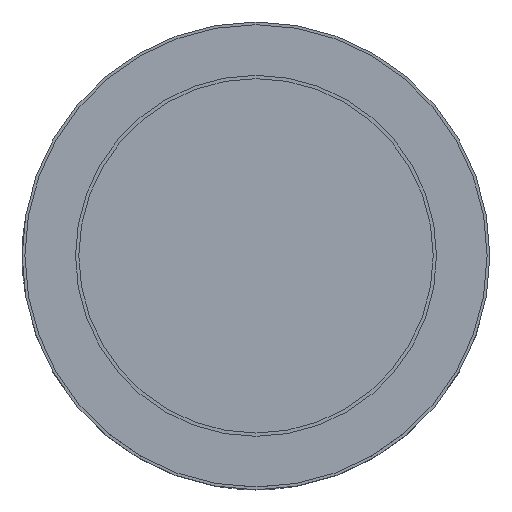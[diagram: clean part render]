
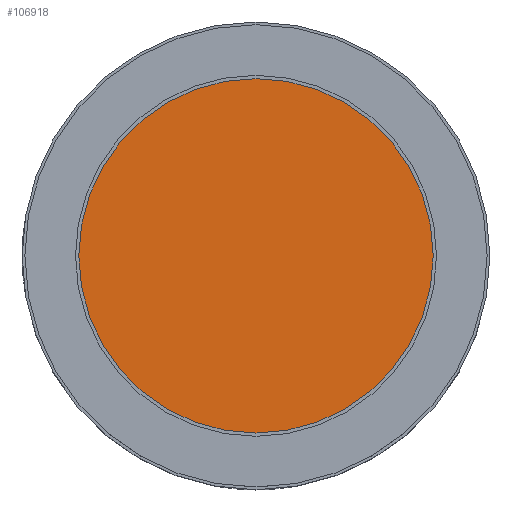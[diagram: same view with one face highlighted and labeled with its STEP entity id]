
A CAD part, top view. The second image highlights one B-rep face of the part: STEP entity #106918.
In plain terms, the highlighted planar face has unit normal (0, 0, 1).
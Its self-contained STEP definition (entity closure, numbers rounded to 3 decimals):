
#106852 = CYLINDRICAL_SURFACE('',#106853,64.4);
#106853 = AXIS2_PLACEMENT_3D('',#106854,#106855,#106856);
#106854 = CARTESIAN_POINT('',(0.,0.,61.4));
#106855 = DIRECTION('',(0.,0.,1.));
#106856 = DIRECTION('',(1.,0.,-0.));
#106867 = EDGE_CURVE('',#106868,#106868,#106870,.T.);
#106868 = VERTEX_POINT('',#106869);
#106869 = CARTESIAN_POINT('',(64.4,0.,62.));
#106870 = SURFACE_CURVE('',#106871,(#106876,#106883),.PCURVE_S1.);
#106871 = CIRCLE('',#106872,64.4);
#106872 = AXIS2_PLACEMENT_3D('',#106873,#106874,#106875);
#106873 = CARTESIAN_POINT('',(0.,0.,62.));
#106874 = DIRECTION('',(0.,0.,1.));
#106875 = DIRECTION('',(1.,0.,-0.));
#106876 = PCURVE('',#106852,#106877);
#106877 = DEFINITIONAL_REPRESENTATION('',(#106878),#106882);
#106878 = LINE('',#106879,#106880);
#106879 = CARTESIAN_POINT('',(0.,0.6));
#106880 = VECTOR('',#106881,1.);
#106881 = DIRECTION('',(1.,0.));
#106882 = ( GEOMETRIC_REPRESENTATION_CONTEXT(2) 
PARAMETRIC_REPRESENTATION_CONTEXT() REPRESENTATION_CONTEXT('2D SPACE',''
  ) );
#106883 = PCURVE('',#106884,#106889);
#106884 = PLANE('',#106885);
#106885 = AXIS2_PLACEMENT_3D('',#106886,#106887,#106888);
#106886 = CARTESIAN_POINT('',(0.,0.,62.));
#106887 = DIRECTION('',(0.,0.,1.));
#106888 = DIRECTION('',(1.,0.,-0.));
#106889 = DEFINITIONAL_REPRESENTATION('',(#106890),#106894);
#106890 = CIRCLE('',#106891,64.4);
#106891 = AXIS2_PLACEMENT_2D('',#106892,#106893);
#106892 = CARTESIAN_POINT('',(0.,0.));
#106893 = DIRECTION('',(1.,0.));
#106894 = ( GEOMETRIC_REPRESENTATION_CONTEXT(2) 
PARAMETRIC_REPRESENTATION_CONTEXT() REPRESENTATION_CONTEXT('2D SPACE',''
  ) );
#106918 = ADVANCED_FACE('',(#106919),#106884,.T.);
#106919 = FACE_BOUND('',#106920,.T.);
#106920 = EDGE_LOOP('',(#106921));
#106921 = ORIENTED_EDGE('',*,*,#106867,.T.);
